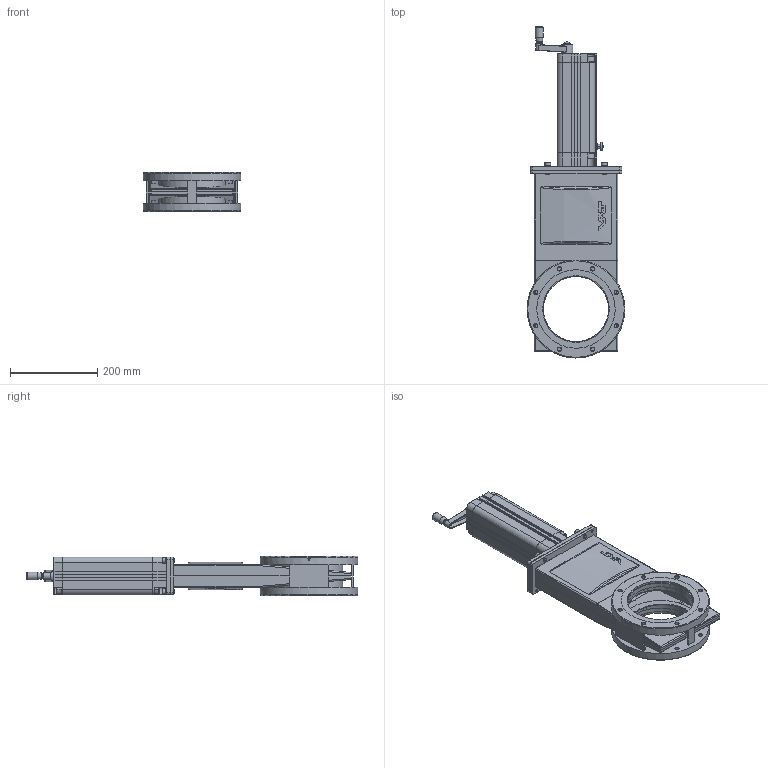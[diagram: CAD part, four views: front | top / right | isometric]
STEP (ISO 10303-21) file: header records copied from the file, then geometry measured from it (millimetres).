
FILE_DESCRIPTION(/* description */ (''),/* implementation_level */ '2;1');
FILE_NAME(/* name */ '1030180304_203.stp',/* time_stamp */ '2013-08-05T09:54:07+02:00',/* author */ (''),/* organization */ (''),/* preprocessor_version */ 'ST-DEVELOPER v11',/* originating_system */ 'SIEMENS PLM Software NX 7.5',/* authorisation */ '');
FILE_SCHEMA (('AP203_CONFIGURATION_CONTROLLED_3D_DESIGN_OF_MECHANICAL_PARTS_AND_ASSEMBLIES_MIM_LF'));
Length unit declared in the file: millimetre
Products named in the file (29): 255736.1_18421ID; 255802.2_18426ID; 255802.2_18425ID; 255781.4; 255788.2; 313588.1; 255781.4_18423ID; 255792.2; N-6092-118.1; 261336.1; 228777; n-6195-408; N-6066-009.1; 260826.1; N-6134-409.1; 332689.2; 259431.1; 261363.3; 261364.3; 261366.3; 255558.4; 261368.5; 301646.1; 261361.5; 261369.1; 255803.6_MODELNX-ARRAGMNTGrundgehäuse_kpl_geschweisst-unbearbeitet; 313594.3_MODEL; 261337.1; 261428.14
Assembly tree (40 placements, depth 4):
  261428.14
    261369.1  x4
    261361.5
    301646.1
    261368.5
    261337.1
      261336.1
      N-6092-118.1  x2
    255558.4
    261366.3
    261364.3
    261363.3
    259431.1
    332689.2
    N-6134-409.1  x4
    260826.1
    N-6066-009.1
    n-6195-408
    228777  x4
    313594.3_MODEL
      255792.2
      255781.4_18423ID
      255803.6_MODELNX-ARRAGMNTGrundgehäuse_kpl_geschweisst-unbearbeitet
        255802.2_18425ID
        255802.2_18426ID
        255736.1_18421ID
      313588.1  x2
      255788.2  x2
      255781.4
Bounding box: 224.8 x 763.1 x 90 mm (x, y, z)
Volume: 2540245 mm3; surface area: 943684.9 mm2
Topology: 47 solids, 47 shells, 1564 faces, 4010 edges, 2621 vertices
Faces by surface type: plane 707, cylinder 486, bspline 182, cone 126, revolution 46, torus 12, sphere 5
Full cylindrical faces by diameter (mm): 1.7 x1, 2.2 x1, 3.17 x1, 4 x2, 4.976 x2, 4.985 x1, 5 x2, 5.102 x4, 5.22 x4, 5.3 x1, 6 x1, 6.66 x4, 6.7 x4, 6.8 x10, 7.7 x2, 7.976 x1, 8 x10, 8.4 x4, 8.5 x26, 9.976 x1, 10 x4, 10.008 x1, 11 x1, 13 x4, 13.586 x1, 13.626 x1, 15 x7, 15.2 x1, 15.4 x4, 16 x2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
Entity records: 59792 total; most frequent: CARTESIAN_POINT 21287, ORIENTED_EDGE 6448, DIRECTION 6305, EDGE_CURVE 3224, AXIS2_PLACEMENT_3D 2287, VERTEX_POINT 2248, EDGE_LOOP 1786, LINE 1715
